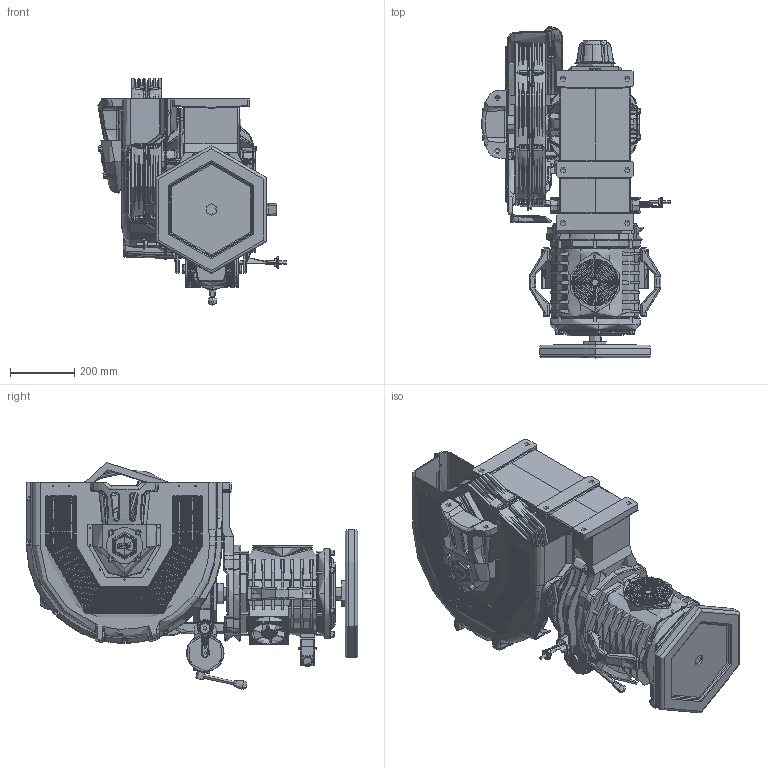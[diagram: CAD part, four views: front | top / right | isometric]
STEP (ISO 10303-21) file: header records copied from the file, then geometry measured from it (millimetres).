
FILE_DESCRIPTION (( 'STEP AP214' ), '1' );
FILE_NAME ('STC55100.STEP', '2026-01-14T10:35:30', ( '' ), ( '' ), 'SwSTEP 2.0', 'SolidWorks 2023', '' );
FILE_SCHEMA (( 'AUTOMOTIVE_DESIGN' ));
Length unit declared in the file: millimetre
Products named in the file (1): STC55100
Bounding box: 586.99 x 1034.16 x 708.11 mm (x, y, z)
Topology: 84 solids, 92 shells, 7844 faces, 19530 edges, 11755 vertices
Faces by surface type: plane 2393, cylinder 2311, bspline 1465, torus 855, cone 643, sphere 177
Full cylindrical faces by diameter (mm): 20 x3
Entity records: 300375 total; most frequent: CARTESIAN_POINT 122705, ORIENTED_EDGE 38762, DIRECTION 35241, EDGE_CURVE 19381, AXIS2_PLACEMENT_3D 14105, VERTEX_POINT 11719, EDGE_LOOP 8616, FACE_OUTER_BOUND 7842
